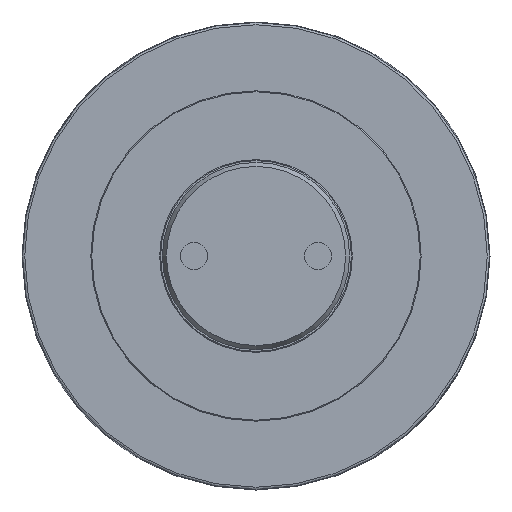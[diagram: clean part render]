
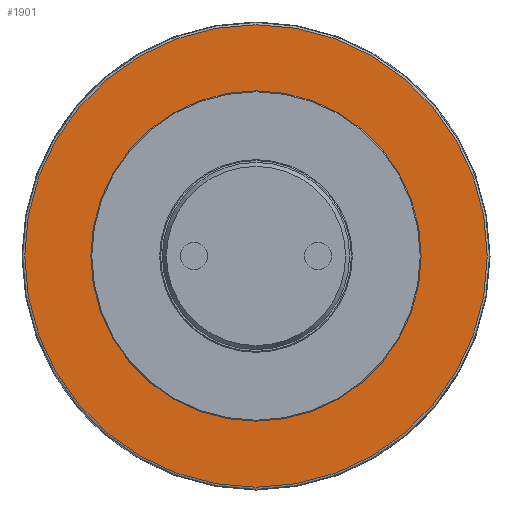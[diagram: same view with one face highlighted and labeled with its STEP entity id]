
A CAD part, left-side view. The second image highlights one B-rep face of the part: STEP entity #1901.
In plain terms, the highlighted planar face has unit normal (-1, 0, 0).
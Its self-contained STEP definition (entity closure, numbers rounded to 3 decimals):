
#40=FACE_BOUND('',#345,.T.);
#130=PLANE('',#2090);
#229=FACE_OUTER_BOUND('',#344,.T.);
#344=EDGE_LOOP('',(#1660));
#345=EDGE_LOOP('',(#1661));
#752=CIRCLE('',#2086,168.);
#755=CIRCLE('',#2091,119.);
#921=VERTEX_POINT('',#3336);
#924=VERTEX_POINT('',#3346);
#1169=EDGE_CURVE('',#921,#921,#752,.T.);
#1173=EDGE_CURVE('',#924,#924,#755,.T.);
#1660=ORIENTED_EDGE('',*,*,#1169,.F.);
#1661=ORIENTED_EDGE('',*,*,#1173,.T.);
#1901=ADVANCED_FACE('',(#229,#40),#130,.T.);
#2086=AXIS2_PLACEMENT_3D('',#3338,#2577,#2578);
#2090=AXIS2_PLACEMENT_3D('',#3345,#2586,#2587);
#2091=AXIS2_PLACEMENT_3D('',#3347,#2588,#2589);
#2577=DIRECTION('center_axis',(1.,0.,0.));
#2578=DIRECTION('ref_axis',(0.,-1.,0.));
#2586=DIRECTION('center_axis',(-1.,0.,0.));
#2587=DIRECTION('ref_axis',(0.,0.,1.));
#2588=DIRECTION('center_axis',(1.,0.,0.));
#2589=DIRECTION('ref_axis',(0.,1.,0.));
#3336=CARTESIAN_POINT('',(-44.,0.,168.));
#3338=CARTESIAN_POINT('Origin',(-44.,0.,0.));
#3345=CARTESIAN_POINT('Origin',(-44.,144.5,0.));
#3346=CARTESIAN_POINT('',(-44.,-119.,0.));
#3347=CARTESIAN_POINT('Origin',(-44.,0.,0.));
